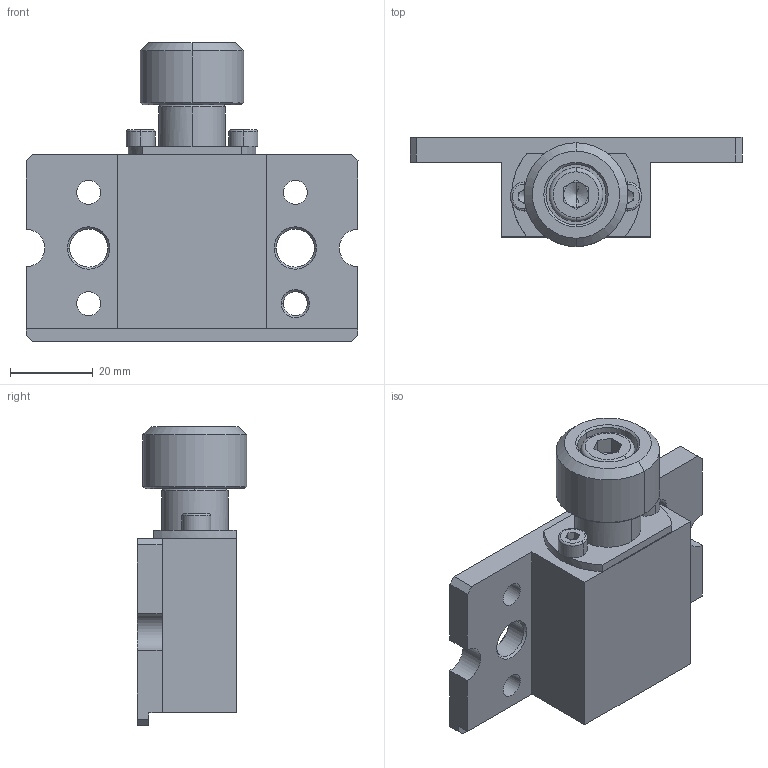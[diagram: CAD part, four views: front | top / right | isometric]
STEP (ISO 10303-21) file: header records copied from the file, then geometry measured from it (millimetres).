
FILE_DESCRIPTION (( 'STEP AP214' ), '1' );
FILE_NAME ('QCL15R-Y.STEP', '2023-03-15T02:48:23', ( 'Windows User' ), ( 'P R C' ), 'SwSTEP 2.0', 'SolidWorks 2019', '' );
FILE_SCHEMA (( 'AUTOMOTIVE_DESIGN' ));
Length unit declared in the file: millimetre
Products named in the file (1): QCL15R-Y
Bounding box: 80 x 26.35 x 72 mm (x, y, z)
Volume: 46901.2 mm3; surface area: 23866.9 mm2
Topology: 8 solids, 8 shells, 719 faces, 1540 edges, 844 vertices
Faces by surface type: cone 386, cylinder 227, plane 83, torus 16, bspline 7
Entity records: 27637 total; most frequent: CARTESIAN_POINT 3791, DIRECTION 3665, ORIENTED_EDGE 3068, EDGE_CURVE 1534, AXIS2_PLACEMENT_3D 1456, VERTEX_POINT 844, EDGE_LOOP 758, LINE 753
